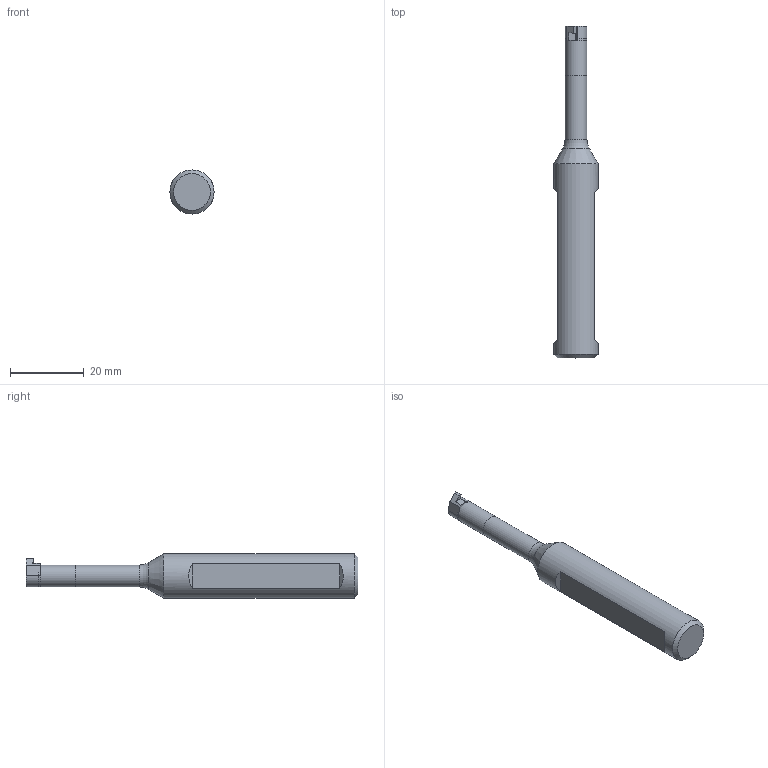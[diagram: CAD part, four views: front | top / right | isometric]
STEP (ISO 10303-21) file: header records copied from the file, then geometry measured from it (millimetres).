
FILE_DESCRIPTION(/* description */ (''),/* implementation_level */ '2;1');
FILE_NAME(/* name */ 'NFTIH08412C-HAAS.stp',/* time_stamp */ '2021-09-17T11:48:07+09:00',/* author */ (''),/* organization */ (''),/* preprocessor_version */ 'ST-DEVELOPER v11',/* originating_system */ 'SIEMENS UGS NX 6.0',/* authorisation */ '');
FILE_SCHEMA (('CONFIG_CONTROL_DESIGN'));
Length unit declared in the file: millimetre
Products named in the file (1): user89DEjzpg
Bounding box: 12 x 90.23 x 12 mm (x, y, z)
Volume: 6814.8 mm3; surface area: 3050.1 mm2
Topology: 3 solids, 3 shells, 33 faces, 71 edges, 47 vertices
Faces by surface type: plane 22, cylinder 8, cone 2, torus 1
Full cylindrical faces by diameter (mm): 2 x1, 2.5 x1, 5.95 x2, 12 x1
Entity records: 920 total; most frequent: DIRECTION 152, CARTESIAN_POINT 138, ORIENTED_EDGE 120, EDGE_CURVE 60, AXIS2_PLACEMENT_3D 58, EDGE_LOOP 46, VERTEX_POINT 44, LINE 36
